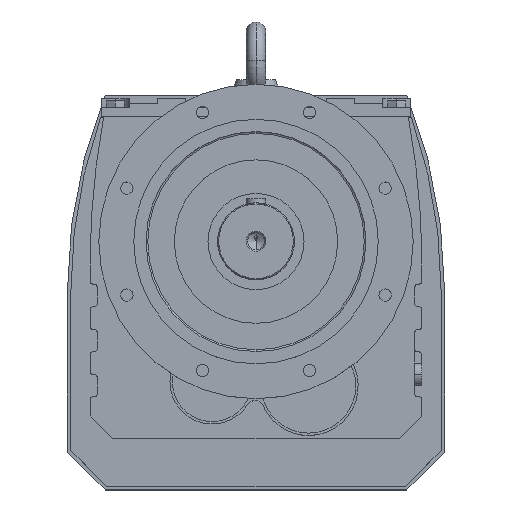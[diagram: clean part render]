
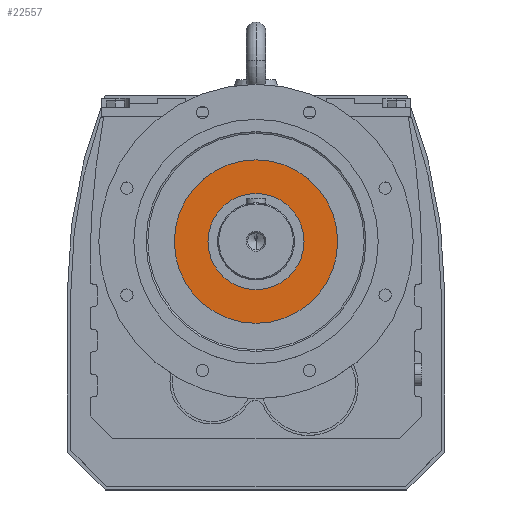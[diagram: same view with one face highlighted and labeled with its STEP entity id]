
A CAD part, top view. The second image highlights one B-rep face of the part: STEP entity #22557.
In plain terms, the highlighted planar face has unit normal (0, 0, 1).
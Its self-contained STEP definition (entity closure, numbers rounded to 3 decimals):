
#22322 = CYLINDRICAL_SURFACE('',#22323,116.944);
#22323 = AXIS2_PLACEMENT_3D('',#22324,#22325,#22326);
#22324 = CARTESIAN_POINT('',(0.,33.4,695.));
#22325 = DIRECTION('',(0.,0.,1.));
#22326 = DIRECTION('',(0.,-1.,0.));
#22375 = CYLINDRICAL_SURFACE('',#22376,116.944);
#22376 = AXIS2_PLACEMENT_3D('',#22377,#22378,#22379);
#22377 = CARTESIAN_POINT('',(0.,33.4,695.));
#22378 = DIRECTION('',(0.,0.,1.));
#22379 = DIRECTION('',(0.,-1.,0.));
#22416 = EDGE_CURVE('',#22417,#22419,#22421,.T.);
#22417 = VERTEX_POINT('',#22418);
#22418 = CARTESIAN_POINT('',(0.,-83.544,464.));
#22419 = VERTEX_POINT('',#22420);
#22420 = CARTESIAN_POINT('',(0.,150.344,464.));
#22421 = SURFACE_CURVE('',#22422,(#22427,#22456),.PCURVE_S1.);
#22422 = CIRCLE('',#22423,116.944);
#22423 = AXIS2_PLACEMENT_3D('',#22424,#22425,#22426);
#22424 = CARTESIAN_POINT('',(0.,33.4,464.));
#22425 = DIRECTION('',(0.,0.,-1.));
#22426 = DIRECTION('',(-1.,0.,0.));
#22427 = PCURVE('',#22375,#22428);
#22428 = DEFINITIONAL_REPRESENTATION('',(#22429),#22455);
#22429 = B_SPLINE_CURVE_WITH_KNOTS('',3,(#22430,#22431,#22432,#22433,
    #22434,#22435,#22436,#22437,#22438,#22439,#22440,#22441,#22442,
    #22443,#22444,#22445,#22446,#22447,#22448,#22449,#22450,#22451,
    #22452,#22453,#22454),.UNSPECIFIED.,.F.,.F.,(4,1,1,1,1,1,1,1,1,1,1,1
    ,1,1,1,1,1,1,1,1,1,1,4),(4.712,4.855,
    4.998,5.141,5.284,5.426,
    5.569,5.712,5.855,5.998,
    6.14,6.283,6.426,6.569,
    6.712,6.854,6.997,7.14,
    7.283,7.426,7.568,7.711,
    7.854),.QUASI_UNIFORM_KNOTS.);
#22430 = CARTESIAN_POINT('',(6.283,-231.));
#22431 = CARTESIAN_POINT('',(6.236,-231.));
#22432 = CARTESIAN_POINT('',(6.14,-231.));
#22433 = CARTESIAN_POINT('',(5.998,-231.));
#22434 = CARTESIAN_POINT('',(5.855,-231.));
#22435 = CARTESIAN_POINT('',(5.712,-231.));
#22436 = CARTESIAN_POINT('',(5.569,-231.));
#22437 = CARTESIAN_POINT('',(5.426,-231.));
#22438 = CARTESIAN_POINT('',(5.284,-231.));
#22439 = CARTESIAN_POINT('',(5.141,-231.));
#22440 = CARTESIAN_POINT('',(4.998,-231.));
#22441 = CARTESIAN_POINT('',(4.855,-231.));
#22442 = CARTESIAN_POINT('',(4.712,-231.));
#22443 = CARTESIAN_POINT('',(4.57,-231.));
#22444 = CARTESIAN_POINT('',(4.427,-231.));
#22445 = CARTESIAN_POINT('',(4.284,-231.));
#22446 = CARTESIAN_POINT('',(4.141,-231.));
#22447 = CARTESIAN_POINT('',(3.998,-231.));
#22448 = CARTESIAN_POINT('',(3.856,-231.));
#22449 = CARTESIAN_POINT('',(3.713,-231.));
#22450 = CARTESIAN_POINT('',(3.57,-231.));
#22451 = CARTESIAN_POINT('',(3.427,-231.));
#22452 = CARTESIAN_POINT('',(3.284,-231.));
#22453 = CARTESIAN_POINT('',(3.189,-231.));
#22454 = CARTESIAN_POINT('',(3.142,-231.));
#22455 = ( GEOMETRIC_REPRESENTATION_CONTEXT(2) 
PARAMETRIC_REPRESENTATION_CONTEXT() REPRESENTATION_CONTEXT('2D SPACE',''
  ) );
#22456 = PCURVE('',#22457,#22462);
#22457 = PLANE('',#22458);
#22458 = AXIS2_PLACEMENT_3D('',#22459,#22460,#22461);
#22459 = CARTESIAN_POINT('',(-50.446,14.546,464.));
#22460 = DIRECTION('',(0.,0.,-1.));
#22461 = DIRECTION('',(-1.,0.,0.));
#22462 = DEFINITIONAL_REPRESENTATION('',(#22463),#22467);
#22463 = CIRCLE('',#22464,116.944);
#22464 = AXIS2_PLACEMENT_2D('',#22465,#22466);
#22465 = CARTESIAN_POINT('',(-50.446,18.854));
#22466 = DIRECTION('',(1.,0.));
#22467 = ( GEOMETRIC_REPRESENTATION_CONTEXT(2) 
PARAMETRIC_REPRESENTATION_CONTEXT() REPRESENTATION_CONTEXT('2D SPACE',''
  ) );
#22514 = EDGE_CURVE('',#22419,#22417,#22515,.T.);
#22515 = SURFACE_CURVE('',#22516,(#22521,#22550),.PCURVE_S1.);
#22516 = CIRCLE('',#22517,116.944);
#22517 = AXIS2_PLACEMENT_3D('',#22518,#22519,#22520);
#22518 = CARTESIAN_POINT('',(0.,33.4,464.));
#22519 = DIRECTION('',(0.,0.,-1.));
#22520 = DIRECTION('',(-1.,0.,0.));
#22521 = PCURVE('',#22322,#22522);
#22522 = DEFINITIONAL_REPRESENTATION('',(#22523),#22549);
#22523 = B_SPLINE_CURVE_WITH_KNOTS('',3,(#22524,#22525,#22526,#22527,
    #22528,#22529,#22530,#22531,#22532,#22533,#22534,#22535,#22536,
    #22537,#22538,#22539,#22540,#22541,#22542,#22543,#22544,#22545,
    #22546,#22547,#22548),.UNSPECIFIED.,.F.,.F.,(4,1,1,1,1,1,1,1,1,1,1,1
    ,1,1,1,1,1,1,1,1,1,1,4),(1.571,1.714,
    1.856,1.999,2.142,2.285,
    2.428,2.57,2.713,2.856,
    2.999,3.142,3.284,3.427,
    3.57,3.713,3.856,3.998,
    4.141,4.284,4.427,4.57,
    4.712),.QUASI_UNIFORM_KNOTS.);
#22524 = CARTESIAN_POINT('',(3.142,-231.));
#22525 = CARTESIAN_POINT('',(3.094,-231.));
#22526 = CARTESIAN_POINT('',(2.999,-231.));
#22527 = CARTESIAN_POINT('',(2.856,-231.));
#22528 = CARTESIAN_POINT('',(2.713,-231.));
#22529 = CARTESIAN_POINT('',(2.57,-231.));
#22530 = CARTESIAN_POINT('',(2.428,-231.));
#22531 = CARTESIAN_POINT('',(2.285,-231.));
#22532 = CARTESIAN_POINT('',(2.142,-231.));
#22533 = CARTESIAN_POINT('',(1.999,-231.));
#22534 = CARTESIAN_POINT('',(1.856,-231.));
#22535 = CARTESIAN_POINT('',(1.714,-231.));
#22536 = CARTESIAN_POINT('',(1.571,-231.));
#22537 = CARTESIAN_POINT('',(1.428,-231.));
#22538 = CARTESIAN_POINT('',(1.285,-231.));
#22539 = CARTESIAN_POINT('',(1.142,-231.));
#22540 = CARTESIAN_POINT('',(1.,-231.));
#22541 = CARTESIAN_POINT('',(0.857,-231.));
#22542 = CARTESIAN_POINT('',(0.714,-231.));
#22543 = CARTESIAN_POINT('',(0.571,-231.));
#22544 = CARTESIAN_POINT('',(0.428,-231.));
#22545 = CARTESIAN_POINT('',(0.286,-231.));
#22546 = CARTESIAN_POINT('',(0.143,-231.));
#22547 = CARTESIAN_POINT('',(0.048,-231.));
#22548 = CARTESIAN_POINT('',(0.,-231.));
#22549 = ( GEOMETRIC_REPRESENTATION_CONTEXT(2) 
PARAMETRIC_REPRESENTATION_CONTEXT() REPRESENTATION_CONTEXT('2D SPACE',''
  ) );
#22550 = PCURVE('',#22457,#22551);
#22551 = DEFINITIONAL_REPRESENTATION('',(#22552),#22556);
#22552 = CIRCLE('',#22553,116.944);
#22553 = AXIS2_PLACEMENT_2D('',#22554,#22555);
#22554 = CARTESIAN_POINT('',(-50.446,18.854));
#22555 = DIRECTION('',(1.,0.));
#22556 = ( GEOMETRIC_REPRESENTATION_CONTEXT(2) 
PARAMETRIC_REPRESENTATION_CONTEXT() REPRESENTATION_CONTEXT('2D SPACE',''
  ) );
#22557 = ADVANCED_FACE('',(#22558,#22624),#22457,.F.);
#22558 = FACE_BOUND('',#22559,.T.);
#22559 = EDGE_LOOP('',(#22560,#22594));
#22560 = ORIENTED_EDGE('',*,*,#22561,.F.);
#22561 = EDGE_CURVE('',#22562,#22564,#22566,.T.);
#22562 = VERTEX_POINT('',#22563);
#22563 = CARTESIAN_POINT('',(0.,-35.35,464.));
#22564 = VERTEX_POINT('',#22565);
#22565 = CARTESIAN_POINT('',(0.,102.15,464.));
#22566 = SURFACE_CURVE('',#22567,(#22572,#22583),.PCURVE_S1.);
#22567 = CIRCLE('',#22568,68.75);
#22568 = AXIS2_PLACEMENT_3D('',#22569,#22570,#22571);
#22569 = CARTESIAN_POINT('',(0.,33.4,464.));
#22570 = DIRECTION('',(0.,0.,1.));
#22571 = DIRECTION('',(-1.,0.,0.));
#22572 = PCURVE('',#22457,#22573);
#22573 = DEFINITIONAL_REPRESENTATION('',(#22574),#22582);
#22574 = ( BOUNDED_CURVE() B_SPLINE_CURVE(2,(#22575,#22576,#22577,#22578
    ,#22579,#22580,#22581),.UNSPECIFIED.,.T.,.F.) 
B_SPLINE_CURVE_WITH_KNOTS((1,2,2,2,2,1),(-2.094,0.,
    2.094,4.189,6.283,8.378),
.UNSPECIFIED.) CURVE() GEOMETRIC_REPRESENTATION_ITEM() 
RATIONAL_B_SPLINE_CURVE((1.,0.5,1.,0.5,1.,0.5,1.)) REPRESENTATION_ITEM(
  '') );
#22575 = CARTESIAN_POINT('',(18.304,18.854));
#22576 = CARTESIAN_POINT('',(18.304,-100.224));
#22577 = CARTESIAN_POINT('',(-84.821,-40.685));
#22578 = CARTESIAN_POINT('',(-187.946,18.854));
#22579 = CARTESIAN_POINT('',(-84.821,78.394));
#22580 = CARTESIAN_POINT('',(18.304,137.933));
#22581 = CARTESIAN_POINT('',(18.304,18.854));
#22582 = ( GEOMETRIC_REPRESENTATION_CONTEXT(2) 
PARAMETRIC_REPRESENTATION_CONTEXT() REPRESENTATION_CONTEXT('2D SPACE',''
  ) );
#22583 = PCURVE('',#22584,#22589);
#22584 = CYLINDRICAL_SURFACE('',#22585,68.75);
#22585 = AXIS2_PLACEMENT_3D('',#22586,#22587,#22588);
#22586 = CARTESIAN_POINT('',(0.,33.4,695.));
#22587 = DIRECTION('',(0.,0.,1.));
#22588 = DIRECTION('',(0.,-1.,0.));
#22589 = DEFINITIONAL_REPRESENTATION('',(#22590),#22593);
#22590 = B_SPLINE_CURVE_WITH_KNOTS('',1,(#22591,#22592),.UNSPECIFIED.,
  .F.,.F.,(2,2),(1.571,4.712),
  .PIECEWISE_BEZIER_KNOTS.);
#22591 = CARTESIAN_POINT('',(0.,-231.));
#22592 = CARTESIAN_POINT('',(3.142,-231.));
#22593 = ( GEOMETRIC_REPRESENTATION_CONTEXT(2) 
PARAMETRIC_REPRESENTATION_CONTEXT() REPRESENTATION_CONTEXT('2D SPACE',''
  ) );
#22594 = ORIENTED_EDGE('',*,*,#22595,.F.);
#22595 = EDGE_CURVE('',#22564,#22562,#22596,.T.);
#22596 = SURFACE_CURVE('',#22597,(#22602,#22613),.PCURVE_S1.);
#22597 = CIRCLE('',#22598,68.75);
#22598 = AXIS2_PLACEMENT_3D('',#22599,#22600,#22601);
#22599 = CARTESIAN_POINT('',(0.,33.4,464.));
#22600 = DIRECTION('',(0.,0.,1.));
#22601 = DIRECTION('',(-1.,0.,0.));
#22602 = PCURVE('',#22457,#22603);
#22603 = DEFINITIONAL_REPRESENTATION('',(#22604),#22612);
#22604 = ( BOUNDED_CURVE() B_SPLINE_CURVE(2,(#22605,#22606,#22607,#22608
    ,#22609,#22610,#22611),.UNSPECIFIED.,.T.,.F.) 
B_SPLINE_CURVE_WITH_KNOTS((1,2,2,2,2,1),(-2.094,0.,
    2.094,4.189,6.283,8.378),
.UNSPECIFIED.) CURVE() GEOMETRIC_REPRESENTATION_ITEM() 
RATIONAL_B_SPLINE_CURVE((1.,0.5,1.,0.5,1.,0.5,1.)) REPRESENTATION_ITEM(
  '') );
#22605 = CARTESIAN_POINT('',(18.304,18.854));
#22606 = CARTESIAN_POINT('',(18.304,-100.224));
#22607 = CARTESIAN_POINT('',(-84.821,-40.685));
#22608 = CARTESIAN_POINT('',(-187.946,18.854));
#22609 = CARTESIAN_POINT('',(-84.821,78.394));
#22610 = CARTESIAN_POINT('',(18.304,137.933));
#22611 = CARTESIAN_POINT('',(18.304,18.854));
#22612 = ( GEOMETRIC_REPRESENTATION_CONTEXT(2) 
PARAMETRIC_REPRESENTATION_CONTEXT() REPRESENTATION_CONTEXT('2D SPACE',''
  ) );
#22613 = PCURVE('',#22614,#22619);
#22614 = CYLINDRICAL_SURFACE('',#22615,68.75);
#22615 = AXIS2_PLACEMENT_3D('',#22616,#22617,#22618);
#22616 = CARTESIAN_POINT('',(0.,33.4,695.));
#22617 = DIRECTION('',(0.,0.,1.));
#22618 = DIRECTION('',(0.,-1.,0.));
#22619 = DEFINITIONAL_REPRESENTATION('',(#22620),#22623);
#22620 = B_SPLINE_CURVE_WITH_KNOTS('',1,(#22621,#22622),.UNSPECIFIED.,
  .F.,.F.,(2,2),(4.712,7.854),
  .PIECEWISE_BEZIER_KNOTS.);
#22621 = CARTESIAN_POINT('',(3.142,-231.));
#22622 = CARTESIAN_POINT('',(6.283,-231.));
#22623 = ( GEOMETRIC_REPRESENTATION_CONTEXT(2) 
PARAMETRIC_REPRESENTATION_CONTEXT() REPRESENTATION_CONTEXT('2D SPACE',''
  ) );
#22624 = FACE_BOUND('',#22625,.T.);
#22625 = EDGE_LOOP('',(#22626,#22627));
#22626 = ORIENTED_EDGE('',*,*,#22416,.F.);
#22627 = ORIENTED_EDGE('',*,*,#22514,.F.);
